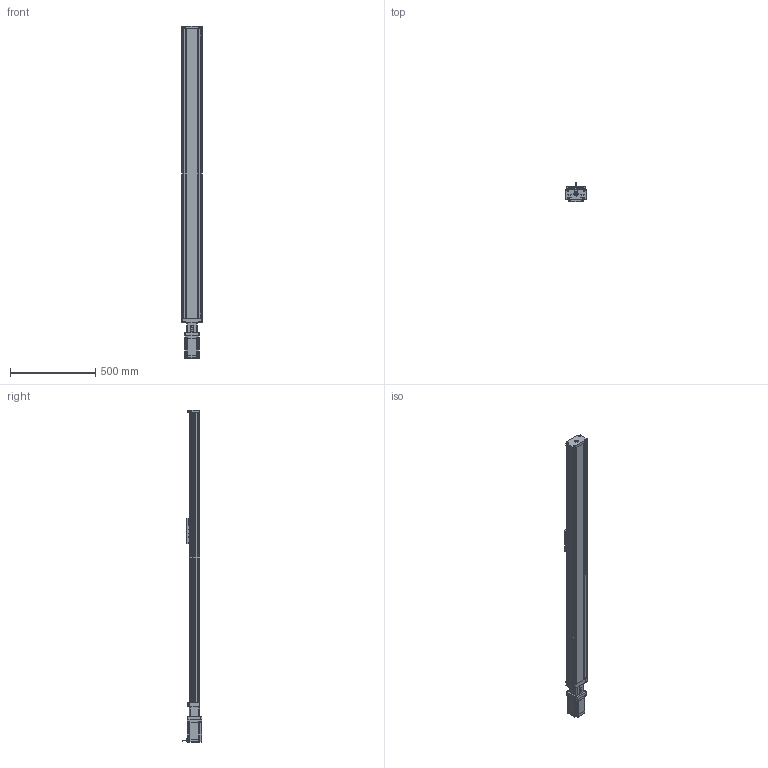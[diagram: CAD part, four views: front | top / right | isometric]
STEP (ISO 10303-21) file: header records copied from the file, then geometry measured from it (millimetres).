
FILE_DESCRIPTION (( 'STEP AP203' ), '1' );
FILE_NAME ('PCH120C7L20E1500BC.STEP', '2020-11-18T06:34:49', ( '' ), ( '' ), 'SwSTEP 2.0', 'SolidWorks 2016', '' );
FILE_SCHEMA (( 'CONFIG_CONTROL_DESIGN' ));
Length unit declared in the file: millimetre
Products named in the file (23): PYSL120-1700; 迍啣ㄗ120Sㄘ; 裔啣ㄗ120Sㄘ; M6x30 内六角圆柱头螺钉_M6x30; 祥凄詩湍-1720; PCH120C7L20E1500BC; HGH15CA（方） 方滑块; ヶ蟀諉啣ㄗ120Sㄘ; M3x6 坋趼羞麥芛蹟隊_M3x6; M6x20 内六角圆柱头螺钉_M6x20; 綴蟀諉啣ㄗ120Sㄘ; 佪裝蹟譫SFE2020; 萇儂蟀諉楊擘ㄗ86ㄘ; FM86128SJT03 步进电机_不带刹车; HRH15-1410_佪裝 俴最600; M6x25 内六角圆柱头螺钉_M6x25; 滅袉輸-5ㄗ120Sㄘ; 滅袉輸-20ㄗ120Sㄘ; 蟀諉輸ㄗ120Sㄘ; 佪裝SFS2020-120-1766; 60萇儂徹傾釱; 7201C 褒諉揖⑩粣創; 6000 旮僱⑩粣創
Assembly tree (39 placements, depth 2):
  PCH120C7L20E1500BC
    PYSL120-1700
    HRH15-1410_佪裝 俴最600  x2
    HGH15CA（方） 方滑块  x4
    綴蟀諉啣ㄗ120Sㄘ
    ヶ蟀諉啣ㄗ120Sㄘ
    60萇儂徹傾釱
    6000 旮僱⑩粣創
    7201C 褒諉揖⑩粣創  x2
    佪裝SFS2020-120-1766
    滅袉輸-5ㄗ120Sㄘ
    滅袉輸-20ㄗ120Sㄘ
    蟀諉輸ㄗ120Sㄘ
    迍啣ㄗ120Sㄘ
    裔啣ㄗ120Sㄘ
    祥凄詩湍-1720
    萇儂蟀諉楊擘ㄗ86ㄘ
    FM86128SJT03 步进电机_不带刹车
    佪裝蹟譫SFE2020
    M6x25 内六角圆柱头螺钉_M6x25  x4
    M6x30 内六角圆柱头螺钉_M6x30  x4
    M6x20 内六角圆柱头螺钉_M6x20  x4
    M3x6 坋趼羞麥芛蹟隊_M3x6  x4
Bounding box: 120 x 114 x 1947 mm (x, y, z)
Volume: 6032168.6 mm3; surface area: 2136705.2 mm2
Topology: 39 solids, 39 shells, 3275 faces, 8437 edges, 5240 vertices
Faces by surface type: plane 1442, cylinder 1167, cone 468, bspline 198
Entity records: 72510 total; most frequent: CARTESIAN_POINT 15538, DIRECTION 11457, ORIENTED_EDGE 11264, EDGE_CURVE 5632, AXIS2_PLACEMENT_3D 4192, VERTEX_POINT 3597, VECTOR 3073, LINE 3073
